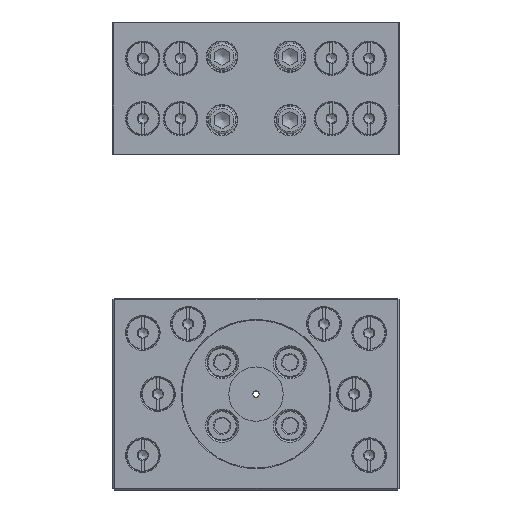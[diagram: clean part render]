
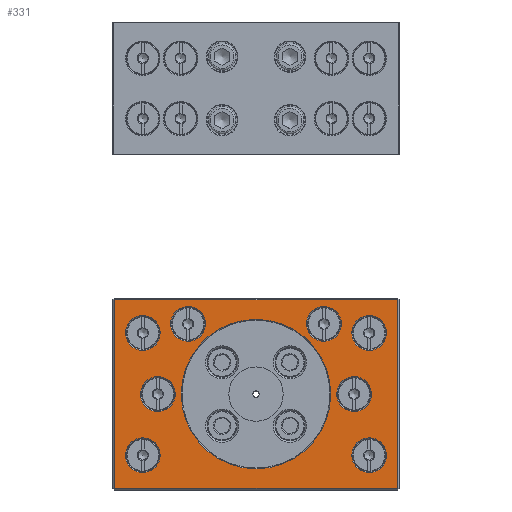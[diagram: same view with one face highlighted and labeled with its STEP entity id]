
A CAD part, top view. The second image highlights one B-rep face of the part: STEP entity #331.
In plain terms, the highlighted planar face has unit normal (0, 0, 1).
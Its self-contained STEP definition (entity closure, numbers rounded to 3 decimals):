
#331=ADVANCED_FACE('',(#9998,#10000,#10002,#10004,#10006,#10008,#10010,#10012,#10014,
#10016),#10018,.T.);
#9998=FACE_BOUND('',#9999,.T.);
#9999=EDGE_LOOP('',(#25866,#25867,#25868,#25869,#25870,#25871,#25872,#25873));
#10000=FACE_BOUND('',#10001,.T.);
#10001=EDGE_LOOP('',(#25874));
#10002=FACE_BOUND('',#10003,.T.);
#10003=EDGE_LOOP('',(#25875));
#10004=FACE_BOUND('',#10005,.T.);
#10005=EDGE_LOOP('',(#25876));
#10006=FACE_BOUND('',#10007,.T.);
#10007=EDGE_LOOP('',(#25877));
#10008=FACE_BOUND('',#10009,.T.);
#10009=EDGE_LOOP('',(#25878));
#10010=FACE_BOUND('',#10011,.T.);
#10011=EDGE_LOOP('',(#25879));
#10012=FACE_BOUND('',#10013,.T.);
#10013=EDGE_LOOP('',(#25880));
#10014=FACE_BOUND('',#10015,.T.);
#10015=EDGE_LOOP('',(#25881));
#10016=FACE_BOUND('',#10017,.T.);
#10017=EDGE_LOOP('',(#25882));
#10018=PLANE('',#10019);
#10019=AXIS2_PLACEMENT_3D('',#10020,#10021,#10022);
#10020=CARTESIAN_POINT('',(151.719,249.295,10.208));
#10021=DIRECTION('',(0.,0.,1.));
#10022=DIRECTION('',(0.,1.,0.));
#25866=ORIENTED_EDGE('',*,*,#31226,.F.);
#25867=ORIENTED_EDGE('',*,*,#31227,.F.);
#25868=ORIENTED_EDGE('',*,*,#31228,.F.);
#25869=ORIENTED_EDGE('',*,*,#31229,.T.);
#25870=ORIENTED_EDGE('',*,*,#31230,.F.);
#25871=ORIENTED_EDGE('',*,*,#31231,.T.);
#25872=ORIENTED_EDGE('',*,*,#31232,.F.);
#25873=ORIENTED_EDGE('',*,*,#31233,.F.);
#25874=ORIENTED_EDGE('',*,*,#31234,.T.);
#25875=ORIENTED_EDGE('',*,*,#31235,.T.);
#25876=ORIENTED_EDGE('',*,*,#31236,.T.);
#25877=ORIENTED_EDGE('',*,*,#31188,.T.);
#25878=ORIENTED_EDGE('',*,*,#31237,.T.);
#25879=ORIENTED_EDGE('',*,*,#31238,.T.);
#25880=ORIENTED_EDGE('',*,*,#31239,.T.);
#25881=ORIENTED_EDGE('',*,*,#31240,.T.);
#25882=ORIENTED_EDGE('',*,*,#31241,.T.);
#31188=EDGE_CURVE('',#33782,#33782,#33783,.F.);
#31226=EDGE_CURVE('',#33850,#33851,#33852,.T.);
#31227=EDGE_CURVE('',#33853,#33850,#33854,.T.);
#31228=EDGE_CURVE('',#33855,#33853,#33856,.T.);
#31229=EDGE_CURVE('',#33855,#33857,#33858,.T.);
#31230=EDGE_CURVE('',#33859,#33857,#33860,.F.);
#31231=EDGE_CURVE('',#33859,#33861,#33862,.T.);
#31232=EDGE_CURVE('',#33863,#33861,#33864,.F.);
#31233=EDGE_CURVE('',#33851,#33863,#33865,.T.);
#31234=EDGE_CURVE('',#33866,#33866,#33867,.F.);
#31235=EDGE_CURVE('',#33868,#33868,#33869,.F.);
#31236=EDGE_CURVE('',#33870,#33870,#33871,.F.);
#31237=EDGE_CURVE('',#33872,#33872,#33873,.F.);
#31238=EDGE_CURVE('',#33874,#33874,#33875,.F.);
#31239=EDGE_CURVE('',#33876,#33876,#33877,.F.);
#31240=EDGE_CURVE('',#33878,#33878,#33879,.F.);
#31241=EDGE_CURVE('',#33880,#33880,#33881,.F.);
#33782=VERTEX_POINT('',#38024);
#33783=CIRCLE('',#38025,11.5);
#33850=VERTEX_POINT('',#38190);
#33851=VERTEX_POINT('',#38191);
#33852=LINE('',#38192,#38193);
#33853=VERTEX_POINT('',#38195);
#33854=LINE('',#38196,#38197);
#33855=VERTEX_POINT('',#38199);
#33856=LINE('',#38200,#38201);
#33857=VERTEX_POINT('',#38203);
#33858=LINE('',#38204,#38205);
#33859=VERTEX_POINT('',#38207);
#33860=LINE('',#38208,#38209);
#33861=VERTEX_POINT('',#38211);
#33862=LINE('',#38212,#38213);
#33863=VERTEX_POINT('',#38215);
#33864=LINE('',#38216,#38217);
#33865=LINE('',#38219,#38220);
#33866=VERTEX_POINT('',#38222);
#33867=CIRCLE('',#38223,11.5);
#33868=VERTEX_POINT('',#38227);
#33869=CIRCLE('',#38228,11.5);
#33870=VERTEX_POINT('',#38232);
#33871=CIRCLE('',#38233,11.5);
#33872=VERTEX_POINT('',#38237);
#33873=CIRCLE('',#38238,11.5);
#33874=VERTEX_POINT('',#38242);
#33875=CIRCLE('',#38243,11.5);
#33876=VERTEX_POINT('',#38247);
#33877=CIRCLE('',#38248,11.5);
#33878=VERTEX_POINT('',#38252);
#33879=CIRCLE('',#38253,11.5);
#33880=VERTEX_POINT('',#38257);
#33881=CIRCLE('',#38258,49.5);
#38024=CARTESIAN_POINT('',(171.719,156.795,10.208));
#38025=AXIS2_PLACEMENT_3D('',#38026,#38027,#38028);
#38026=CARTESIAN_POINT('',(171.719,145.295,10.208));
#38027=DIRECTION('',(0.,0.,1.));
#38028=DIRECTION('',(0.,1.,0.));
#38190=CARTESIAN_POINT('',(152.719,123.71,10.208));
#38191=CARTESIAN_POINT('',(152.719,247.881,10.208));
#38192=CARTESIAN_POINT('',(152.719,123.71,10.208));
#38193=VECTOR('',#38194,1.);
#38194=DIRECTION('',(0.,1.,0.));
#38195=CARTESIAN_POINT('',(153.133,123.295,10.208));
#38196=CARTESIAN_POINT('',(153.133,123.295,10.208));
#38197=VECTOR('',#38198,1.);
#38198=DIRECTION('',(-0.707,0.707,0.));
#38199=CARTESIAN_POINT('',(340.305,123.295,10.208));
#38200=CARTESIAN_POINT('',(340.305,123.295,10.208));
#38201=VECTOR('',#38202,1.);
#38202=DIRECTION('',(-1.,0.,0.));
#38203=CARTESIAN_POINT('',(340.719,123.71,10.208));
#38204=CARTESIAN_POINT('',(340.305,123.295,10.208));
#38205=VECTOR('',#38206,1.);
#38206=DIRECTION('',(0.707,0.707,0.));
#38207=CARTESIAN_POINT('',(340.719,247.881,10.208));
#38208=CARTESIAN_POINT('',(340.719,123.71,10.208));
#38209=VECTOR('',#38210,1.);
#38210=DIRECTION('',(0.,1.,0.));
#38211=CARTESIAN_POINT('',(340.305,248.295,10.208));
#38212=CARTESIAN_POINT('',(340.719,247.881,10.208));
#38213=VECTOR('',#38214,1.);
#38214=DIRECTION('',(-0.707,0.707,0.));
#38215=CARTESIAN_POINT('',(153.133,248.295,10.208));
#38216=CARTESIAN_POINT('',(340.305,248.295,10.208));
#38217=VECTOR('',#38218,1.);
#38218=DIRECTION('',(-1.,0.,0.));
#38219=CARTESIAN_POINT('',(152.719,247.881,10.208));
#38220=VECTOR('',#38221,1.);
#38221=DIRECTION('',(0.707,0.707,0.));
#38222=CARTESIAN_POINT('',(171.719,237.795,10.208));
#38223=AXIS2_PLACEMENT_3D('',#38224,#38225,#38226);
#38224=CARTESIAN_POINT('',(171.719,226.295,10.208));
#38225=DIRECTION('',(0.,0.,1.));
#38226=DIRECTION('',(0.,1.,0.));
#38227=CARTESIAN_POINT('',(201.719,243.795,10.208));
#38228=AXIS2_PLACEMENT_3D('',#38229,#38230,#38231);
#38229=CARTESIAN_POINT('',(201.719,232.295,10.208));
#38230=DIRECTION('',(0.,0.,1.));
#38231=DIRECTION('',(0.,1.,0.));
#38232=CARTESIAN_POINT('',(181.719,197.295,10.208));
#38233=AXIS2_PLACEMENT_3D('',#38234,#38235,#38236);
#38234=CARTESIAN_POINT('',(181.719,185.795,10.208));
#38235=DIRECTION('',(0.,0.,1.));
#38236=DIRECTION('',(0.,1.,0.));
#38237=CARTESIAN_POINT('',(291.719,243.795,10.208));
#38238=AXIS2_PLACEMENT_3D('',#38239,#38240,#38241);
#38239=CARTESIAN_POINT('',(291.719,232.295,10.208));
#38240=DIRECTION('',(0.,0.,1.));
#38241=DIRECTION('',(0.,1.,0.));
#38242=CARTESIAN_POINT('',(321.719,237.795,10.208));
#38243=AXIS2_PLACEMENT_3D('',#38244,#38245,#38246);
#38244=CARTESIAN_POINT('',(321.719,226.295,10.208));
#38245=DIRECTION('',(0.,0.,1.));
#38246=DIRECTION('',(0.,1.,0.));
#38247=CARTESIAN_POINT('',(311.719,197.295,10.208));
#38248=AXIS2_PLACEMENT_3D('',#38249,#38250,#38251);
#38249=CARTESIAN_POINT('',(311.719,185.795,10.208));
#38250=DIRECTION('',(0.,0.,1.));
#38251=DIRECTION('',(0.,1.,0.));
#38252=CARTESIAN_POINT('',(321.719,156.795,10.208));
#38253=AXIS2_PLACEMENT_3D('',#38254,#38255,#38256);
#38254=CARTESIAN_POINT('',(321.719,145.295,10.208));
#38255=DIRECTION('',(0.,0.,1.));
#38256=DIRECTION('',(0.,1.,0.));
#38257=CARTESIAN_POINT('',(246.719,235.295,10.208));
#38258=AXIS2_PLACEMENT_3D('',#38259,#38260,#38261);
#38259=CARTESIAN_POINT('',(246.719,185.795,10.208));
#38260=DIRECTION('',(0.,0.,1.));
#38261=DIRECTION('',(0.,1.,0.));
